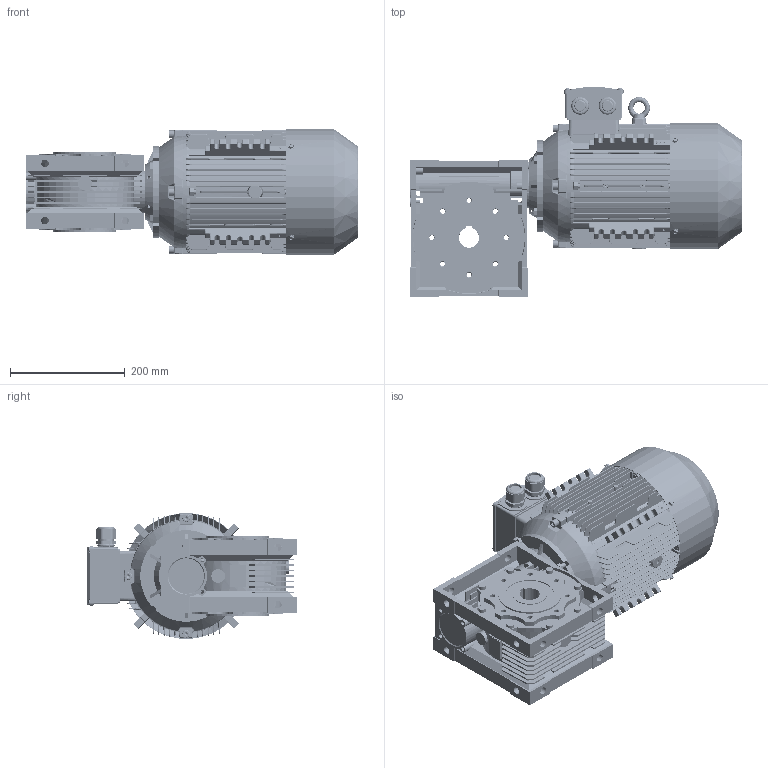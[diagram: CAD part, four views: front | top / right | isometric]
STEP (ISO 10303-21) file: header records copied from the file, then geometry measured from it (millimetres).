
FILE_DESCRIPTION (( 'STEP AP203' ), '1' );
FILE_NAME ('CMRV090_MX3-112M.STEP', '2018-07-31T09:04:33', ( '' ), ( '' ), 'SwSTEP 2.0', 'SolidWorks 2012', '' );
FILE_SCHEMA (( 'CONFIG_CONTROL_DESIGN' ));
Products named in the file (24): CMRV090_MX3-112M; MX3-112_B14; DMX-IE3 112 Flange; DMX-IE3 112  cable glands_3; hexagon flange head tapping screws gb_GB_SQUARE_AND_HEXAGON_TYPE137 ST4.8X9.5 C-N_3; eyebolts gb_GB_FASTENER_SCREWS_FRS M8-N_3; cross recessed pan head screws gb_GB_CROSS_SCREWS_TYPE1 M5X12-12  H type-N_3; DMX-IE3 112terminal box cover_3; DMX-IE3 112terminal box base_3; plain parallel keys_GB_CONNECTING_PIECE_KEYS_CSK 8X50_3; DMX-IE3 112   fan cover_3; hexagon socket head cap screws gb_GB_FASTENER_SCREWS_HSHCS M8X40-N_3; hexagon nuts grade c gb_GB_FASTENER_NUT_SNC1 M8-N_3; spring lock washers--normal type gb_GB_FASTENER_WASHER_SW 8_3; circlips for shaft--type a large gb_GB_CONNECTING_PIECE_RING_RRA 28_3; DMX-IE3 112 fan_3; DMX-IE3 oil seal_3; DMX-IE3 112M4  oil seal_3; deep groove ball bearings gb_Rolling bearings 6206 GB 276-94_3; deep groove ball bearings gb_Rolling bearings 6306 GB 276-94_3; DMX-IE3 112 shield_3; DMX-IE3 112 shaft_3; DMX-IE3 112M4 casing_3; CMRV090_B10
Assembly tree (52 placements, depth 3):
  CMRV090_MX3-112M
    CMRV090_B10
    MX3-112_B14
      DMX-IE3 112M4 casing_3
      DMX-IE3 112 shaft_3
      DMX-IE3 112 shield_3
      deep groove ball bearings gb_Rolling bearings 6306 GB 276-94_3
      deep groove ball bearings gb_Rolling bearings 6206 GB 276-94_3
      DMX-IE3 112M4  oil seal_3
      DMX-IE3 oil seal_3
      DMX-IE3 112 fan_3
      circlips for shaft--type a large gb_GB_CONNECTING_PIECE_RING_RRA 28_3
      spring lock washers--normal type gb_GB_FASTENER_WASHER_SW 8_3  x8
      hexagon nuts grade c gb_GB_FASTENER_NUT_SNC1 M8-N_3  x8
      hexagon socket head cap screws gb_GB_FASTENER_SCREWS_HSHCS M8X40-N_3  x8
      DMX-IE3 112   fan cover_3
      plain parallel keys_GB_CONNECTING_PIECE_KEYS_CSK 8X50_3
      DMX-IE3 112terminal box base_3
      DMX-IE3 112terminal box cover_3
      cross recessed pan head screws gb_GB_CROSS_SCREWS_TYPE1 M5X12-12  H type-N_3  x4
      eyebolts gb_GB_FASTENER_SCREWS_FRS M8-N_3
      hexagon flange head tapping screws gb_GB_SQUARE_AND_HEXAGON_TYPE137 ST4.8X9.5 C-N_3  x5
      DMX-IE3 112  cable glands_3  x2
      DMX-IE3 112 Flange
Bounding box: 579.75 x 365.6 x 219.16 mm (x, y, z)
Volume: 1462903.6 mm3; surface area: 1874645.8 mm2
Topology: 50 solids, 62 shells, 7270 faces, 19401 edges, 12045 vertices
Faces by surface type: plane 2750, cylinder 2050, bspline 1619, cone 630, torus 111, sphere 110
Entity records: 282130 total; most frequent: CARTESIAN_POINT 124074, ORIENTED_EDGE 34848, DIRECTION 28928, EDGE_CURVE 17681, VERTEX_POINT 11092, AXIS2_PLACEMENT_3D 10273, LINE 8382, VECTOR 8382
